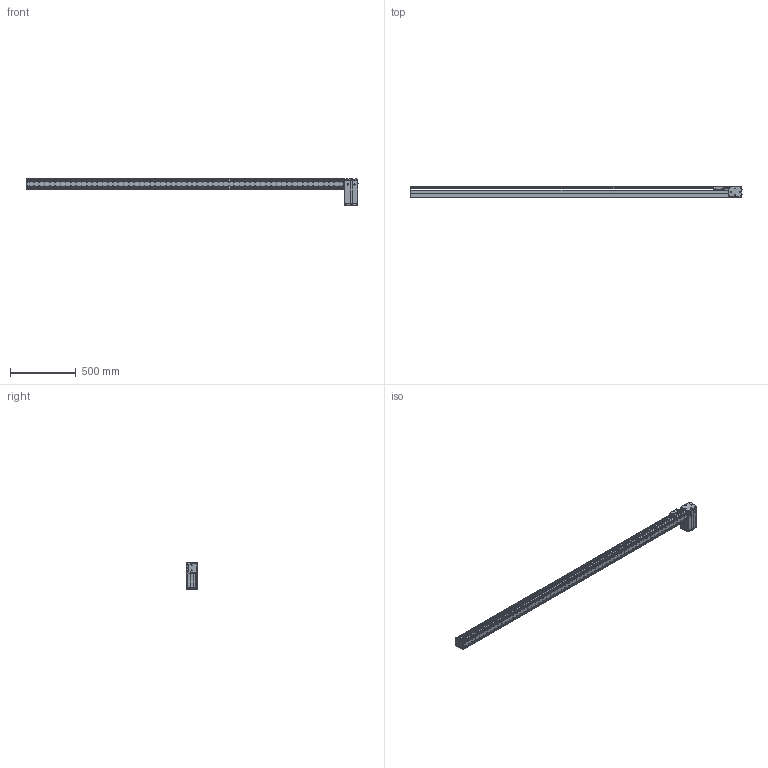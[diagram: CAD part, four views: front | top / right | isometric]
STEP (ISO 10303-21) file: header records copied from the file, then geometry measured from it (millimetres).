
FILE_DESCRIPTION((''),'2;1');
FILE_NAME('BE10_-BL-S_N-N5_IGS_PRT','2017-06-18T',(' '),(''),'PRO/ENGINEER BY PARAMETRIC TECHNOLOGY CORPORATION, 2015030','PRO/ENGINEER BY PARAMETRIC TECHNOLOGY CORPORATION, 2015030','');
FILE_SCHEMA(('CONFIG_CONTROL_DESIGN'));
Products named in the file (1): BE10_-BL-S_N-N5_IGS_PRT
Bounding box: 2520.8 x 85 x 200.22 mm (x, y, z)
Volume: 3189072 mm3; surface area: 2257472.7 mm2
Topology: 5 solids, 199 shells, 2401 faces, 6602 edges, 4411 vertices
Faces by surface type: cylinder 1167, plane 1075, cone 103, sphere 28, torus 25, bspline 3
Entity records: 78900 total; most frequent: CARTESIAN_POINT 16168, DIRECTION 13383, ORIENTED_EDGE 12352, EDGE_CURVE 6546, AXIS2_PLACEMENT_3D 4934, VERTEX_POINT 4410, VECTOR 3515, LINE 3515
